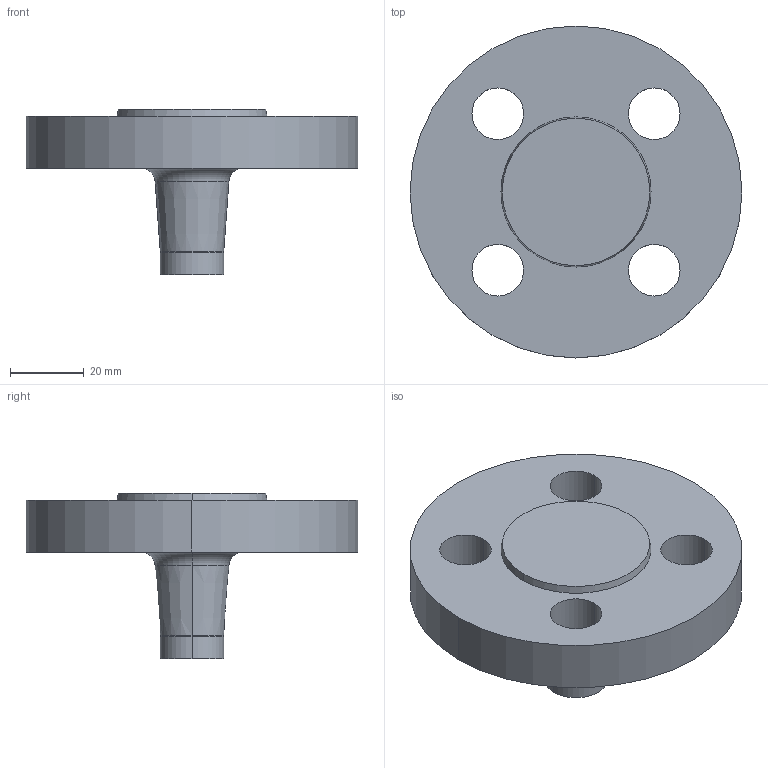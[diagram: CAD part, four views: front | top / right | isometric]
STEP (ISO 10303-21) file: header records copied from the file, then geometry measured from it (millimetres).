
FILE_DESCRIPTION (( 'STEP AP214' ), '1' );
FILE_NAME ('PN40 DN10 Type 21(ii) - Type B Face.STEP', '2018-12-29T05:06:01', ( '' ), ( '' ), 'SwSTEP 2.0', 'SolidWorks 2019', '' );
FILE_SCHEMA (( 'AUTOMOTIVE_DESIGN' ));
Length unit declared in the file: millimetre
Products named in the file (1): PN40 DN10 Type 21(ii) - Type B Face
Bounding box: 90 x 90 x 45 mm (x, y, z)
Volume: 91047.6 mm3; surface area: 19631 mm2
Topology: 1 solids, 1 shells, 24 faces, 54 edges, 34 vertices
Faces by surface type: cylinder 12, torus 4, cone 4, plane 4
Entity records: 738 total; most frequent: DIRECTION 142, CARTESIAN_POINT 113, ORIENTED_EDGE 108, AXIS2_PLACEMENT_3D 63, EDGE_CURVE 54, CIRCLE 38, EDGE_LOOP 34, VERTEX_POINT 34
